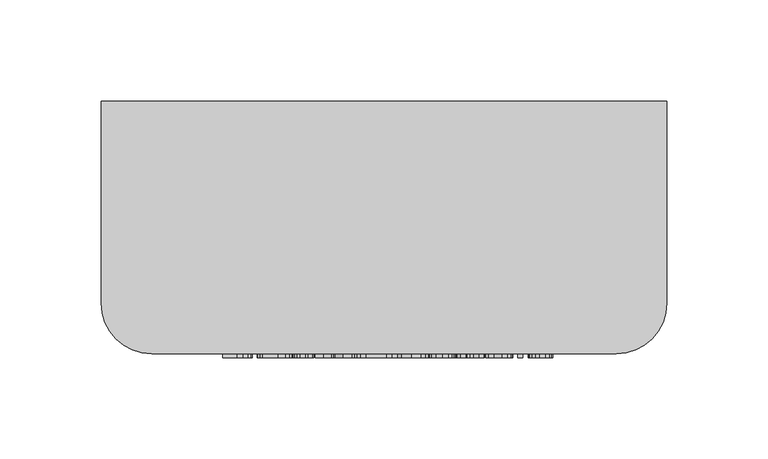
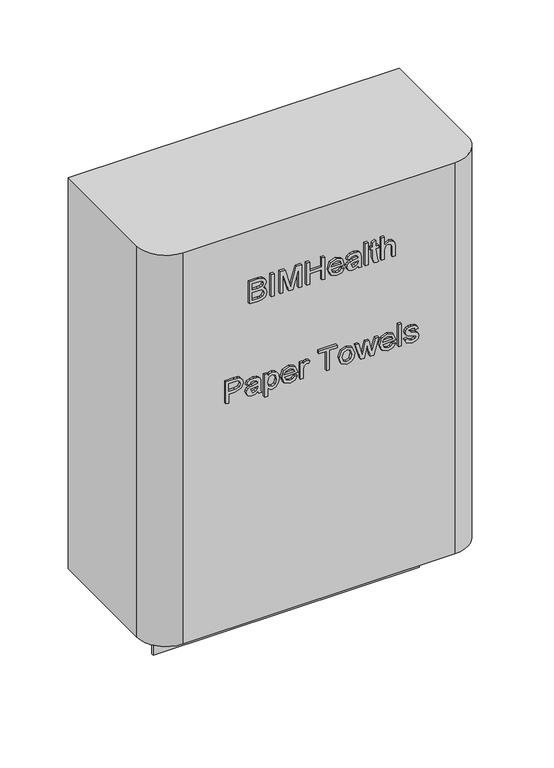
"""IFC4 building model written with IfcOpenShell, lengths in millimetres: furniture geometry, BIMHealth-Paper_Towel_Dispenser-LOD2A-v1 : BIMHealth-Paper_Towel_Dispenser-LOD2A-v1."""

from ifc_helpers import new_model, si_unit, frame, origin, place, context, project, spatial, polyline, circle_curve, outline, extrude, source, transform, mapped, element, save
from ifc_brep_helpers import plane_surface, cylinder_surface, revolved_surface, advanced_brep


def furniture_6688fcf2(model_context):
    return source(origin(), model_context, "Body", "SolidModel", [
        extrude(outline(polyline([(1486.0993641, 80.0917119), (1486.0993641, 87.5484427), (1486.4383065, 90.7046927), (1487.4383065, 92.8465196), (1489.3229218, 94.2816158), (1491.9695565, 94.8609427), (1495.0320565, 94.012385), (1496.8685949, 91.5869042), (1498.6113834, 93.5845004), (1500.9118641, 94.2455581), (1503.4310949, 93.4595004), (1505.2123449, 91.2864234), (1505.7916718, 87.606135), (1505.7916718, 80.0917119), (1486.0993641, 80.0917119)]), holes=[polyline([(1497.7916718, 82.5532504), (1503.3301334, 82.5532504), (1503.3301334, 86.7070965), (1503.0729218, 89.8705581), (1502.1234026, 91.2888273), (1500.5176334, 91.7840196), (1498.914268, 91.2527696), (1498.0032103, 89.6734427), (1497.7916718, 87.0484427), (1497.7916718, 82.5532504)]), polyline([(1488.5609026, 82.5532504), (1495.3301334, 82.5532504), (1495.3301334, 87.3609427), (1495.0008065, 90.4018081), (1493.8589795, 91.9282504), (1491.945518, 92.3994042), (1489.1931141, 90.9739234), (1488.6570565, 89.4282504), (1488.5609026, 87.6013273), (1488.5609026, 82.5532504)])]), frame((0.0, -127.0, 0.0), z_axis=(0.0, 1.0, 0.0), x_axis=(0.0, 0.0, 1.0)), (0.0, 0.0, 1.0), 2.0),
        extrude(outline(polyline([(101.0147888, -127.0), (98.5532504, -127.0), (98.5532504, -125.0), (101.0147888, -125.0), (101.0147888, -127.0)])), frame((0.0, 0.0, 1486.0993641), z_axis=(0.0, 0.0, 1.0), x_axis=(1.0, 0.0, 0.0)), (0.0, 0.0, 1.0), 19.6923077),
        extrude(outline(polyline([(1486.0993641, 105.9378658), (1486.0993641, 108.3994042), (1503.3301334, 108.3994042), (1486.0993641, 113.3465196), (1486.0993641, 116.6830581), (1503.3301334, 121.6301734), (1486.0993641, 121.6301734), (1486.0993641, 124.0917119), (1505.7916718, 124.0917119), (1505.7916718, 119.856135), (1492.1522488, 115.8945965), (1489.0128257, 115.0147888), (1491.9118641, 114.2022888), (1505.7916718, 110.1734427), (1505.7916718, 105.9378658), (1486.0993641, 105.9378658)])), frame((0.0, -127.0, 0.0), z_axis=(0.0, 1.0, 0.0), x_axis=(0.0, 0.0, 1.0)), (0.0, 0.0, 1.0), 2.0),
        extrude(outline(polyline([(1486.0993641, 128.3994042), (1486.0993641, 130.8609427), (1495.3301334, 130.8609427), (1495.3301334, 141.3224811), (1486.0993641, 141.3224811), (1486.0993641, 143.7840196), (1505.7916718, 143.7840196), (1505.7916718, 141.3224811), (1497.7916718, 141.3224811), (1497.7916718, 130.8609427), (1505.7916718, 130.8609427), (1505.7916718, 128.3994042), (1486.0993641, 128.3994042)])), frame((0.0, -127.0, 0.0), z_axis=(0.0, 1.0, 0.0), x_axis=(0.0, 0.0, 1.0)), (0.0, 0.0, 1.0), 2.0),
        extrude(outline(polyline([(1490.4070565, 157.9090196), (1488.7676334, 156.3224811), (1488.2532103, 153.9090196), (1489.3637872, 150.7383465), (1492.5609026, 149.3224811), (1493.2243641, 160.3994042), (1498.8637872, 158.5316158), (1500.8685949, 153.7215196), (1498.8589795, 148.7695965), (1493.2099411, 146.8609427), (1487.7411911, 148.7503658), (1485.7916718, 153.8609427), (1486.9214795, 158.0652696), (1490.0993641, 160.3224811), (1490.4070565, 157.9090196)]), holes=[polyline([(1495.0224411, 149.3224811), (1497.4863834, 150.6806542), (1498.4070565, 153.7119042), (1497.2532103, 156.9522888), (1495.0224411, 157.9378658), (1495.0224411, 149.3224811)])]), frame((0.0, -127.0, 0.0), z_axis=(0.0, 1.0, 0.0), x_axis=(0.0, 0.0, 1.0)), (0.0, 0.0, 1.0), 2.0),
        extrude(outline(polyline([(1487.945518, 172.0917119), (1486.0993641, 172.7070965), (1486.0993641, 175.168635), (1488.1690757, 174.6782504), (1492.445518, 174.5532504), (1495.508018, 174.5532504), (1497.6618641, 174.4330581), (1499.3325372, 173.6782504), (1500.4310949, 171.9931542), (1500.8685949, 169.0099811), (1500.3734026, 165.762385), (1498.9647488, 163.6181542), (1496.5609026, 162.5532504), (1496.2532103, 165.0147888), (1497.9334988, 166.2022888), (1498.4070565, 168.6926734), (1497.695518, 171.4138273), (1495.3301334, 172.0772888), (1494.4839795, 167.8080581), (1494.1137872, 165.6782504), (1493.3060949, 163.9546927), (1491.8926334, 162.7167119), (1489.945518, 162.2455581), (1486.9599411, 163.4931542), (1485.7916718, 167.0676734), (1486.2772488, 169.7046927), (1487.945518, 172.0917119)]), holes=[polyline([(1492.5200372, 172.0845004), (1490.2676334, 171.6878658), (1488.8421526, 170.0820965), (1488.2532103, 167.5917119), (1491.7147488, 166.0027696), (1492.1137872, 168.1205581), (1492.5200372, 172.0845004)])]), frame((0.0, -127.0, 0.0), z_axis=(0.0, 1.0, 0.0), x_axis=(0.0, 0.0, 1.0)), (0.0, 0.0, 1.0), 2.0),
        extrude(outline(polyline([(180.3994042, -127.0), (177.9378658, -127.0), (177.9378658, -125.0), (180.3994042, -125.0), (180.3994042, -127.0)])), frame((0.0, 0.0, 1486.0993641), z_axis=(0.0, 0.0, 1.0), x_axis=(1.0, 0.0, 0.0)), (0.0, 0.0, 1.0), 19.6923077),
        extrude(outline(polyline([(1489.1450372, 188.0917119), (1498.0993641, 186.8609427), (1498.0993641, 189.3224811), (1500.5609026, 189.3224811), (1500.5609026, 186.8609427), (1505.5224411, 186.8609427), (1504.0753257, 184.3994042), (1500.5609026, 184.3994042), (1500.5609026, 182.5532504), (1498.0993641, 182.5532504), (1498.0993641, 184.3994042), (1490.0657103, 184.3994042), (1486.2003257, 185.7263273), (1485.7916718, 187.7888273), (1486.0272488, 189.6301734), (1489.1450372, 188.0917119)])), frame((0.0, -127.0, 0.0), z_axis=(0.0, 1.0, 0.0), x_axis=(0.0, 0.0, 1.0)), (0.0, 0.0, 1.0), 2.0),
        extrude(outline(polyline([(1486.0993641, 191.7840196), (1486.0993641, 194.2455581), (1493.7820565, 194.2455581), (1496.3734026, 194.6470004), (1497.8589795, 195.9931542), (1498.4070565, 198.0099811), (1497.5945565, 200.231135), (1494.9984026, 201.0147888), (1486.0993641, 201.0147888), (1486.0993641, 203.4763273), (1495.2532103, 203.4763273), (1498.4887872, 202.9715196), (1500.2363834, 201.293635), (1500.8685949, 198.5292119), (1498.5512872, 194.2455581), (1505.7916718, 194.2455581), (1505.7916718, 191.7840196), (1486.0993641, 191.7840196)])), frame((0.0, -127.0, 0.0), z_axis=(0.0, 1.0, 0.0), x_axis=(0.0, 0.0, 1.0)), (0.0, 0.0, 1.0), 2.0),
        extrude(outline(polyline([(1403.5993641, 60.0917119), (1403.5993641, 62.5532504), (1411.5993641, 62.5532504), (1411.5993641, 67.5580581), (1413.3397488, 73.2768081), (1417.5945565, 74.8609427), (1420.2796526, 74.2744042), (1422.1834988, 72.7239234), (1423.1041718, 70.3320965), (1423.2916718, 67.3897888), (1423.2916718, 60.0917119), (1403.5993641, 60.0917119)]), holes=[polyline([(1414.0609026, 62.5532504), (1420.8301334, 62.5532504), (1420.8301334, 67.6445965), (1420.6618641, 70.106135), (1419.5464795, 71.7671927), (1417.508018, 72.3994042), (1414.9647488, 71.3272888), (1414.0609026, 67.7022888), (1414.0609026, 62.5532504)])]), frame((0.0, -127.0, 0.0), z_axis=(0.0, 1.0, 0.0), x_axis=(0.0, 0.0, 1.0)), (0.0, 0.0, 1.0), 2.0),
        extrude(outline(polyline([(1405.445518, 87.168635), (1403.5993641, 87.7840196), (1403.5993641, 90.2455581), (1405.6690757, 89.7551734), (1409.945518, 89.6301734), (1413.008018, 89.6301734), (1415.1618641, 89.5099811), (1416.8325372, 88.7551734), (1417.9310949, 87.0700773), (1418.3685949, 84.0869042), (1417.8734026, 80.8393081), (1416.4647488, 78.6950773), (1414.0609026, 77.6301734), (1413.7532103, 80.0917119), (1415.4334988, 81.2792119), (1415.9070565, 83.7695965), (1415.195518, 86.4907504), (1412.8301334, 87.1542119), (1411.9839795, 82.8849811), (1411.6137872, 80.7551734), (1410.8060949, 79.0316158), (1409.3926334, 77.793635), (1407.445518, 77.3224811), (1404.4599411, 78.5700773), (1403.2916718, 82.1445965), (1403.7772488, 84.7816158), (1405.445518, 87.168635)]), holes=[polyline([(1410.0200372, 87.1614234), (1407.7676334, 86.7647888), (1406.3421526, 85.1590196), (1405.7532103, 82.668635), (1409.2147488, 81.0796927), (1409.6137872, 83.1974811), (1410.0200372, 87.1614234)])]), frame((0.0, -127.0, 0.0), z_axis=(0.0, 1.0, 0.0), x_axis=(0.0, 0.0, 1.0)), (0.0, 0.0, 1.0), 2.0),
        extrude(outline(polyline([(1398.0609026, 93.0147888), (1398.0609026, 95.4763273), (1405.5224411, 95.4763273), (1403.9238834, 97.0364234), (1403.2916718, 99.1782504), (1404.2363834, 102.2912311), (1406.9527295, 104.5460388), (1410.9407103, 105.3224811), (1414.7339795, 104.6349811), (1417.4166718, 102.5965196), (1418.3685949, 99.4763273), (1417.6883065, 97.1782504), (1415.6474411, 95.4763273), (1418.0609026, 95.4763273), (1418.0609026, 93.0147888), (1398.0609026, 93.0147888)]), holes=[polyline([(1410.7147488, 95.4763273), (1414.5777295, 96.6133465), (1415.9070565, 99.2263273), (1414.6570565, 101.7888273), (1410.8974411, 102.8609427), (1407.008018, 101.762385), (1405.7532103, 99.1253658), (1406.9647488, 96.5412311), (1410.7147488, 95.4763273)])]), frame((0.0, -127.0, 0.0), z_axis=(0.0, 1.0, 0.0), x_axis=(0.0, 0.0, 1.0)), (0.0, 0.0, 1.0), 2.0),
        extrude(outline(polyline([(1407.9070565, 118.2167119), (1406.2676334, 116.6301734), (1405.7532103, 114.2167119), (1406.8637872, 111.0460388), (1410.0609026, 109.6301734), (1410.7243641, 120.7070965), (1416.3637872, 118.8393081), (1418.3685949, 114.0292119), (1416.3589795, 109.0772888), (1410.7099411, 107.168635), (1405.2411911, 109.0580581), (1403.2916718, 114.168635), (1404.4214795, 118.3729619), (1407.5993641, 120.6301734), (1407.9070565, 118.2167119)]), holes=[polyline([(1412.5224411, 109.6301734), (1414.9863834, 110.9883465), (1415.9070565, 114.0195965), (1414.7532103, 117.2599811), (1412.5224411, 118.2455581), (1412.5224411, 109.6301734)])]), frame((0.0, -127.0, 0.0), z_axis=(0.0, 1.0, 0.0), x_axis=(0.0, 0.0, 1.0)), (0.0, 0.0, 1.0), 2.0),
        extrude(outline(polyline([(1403.5993641, 123.168635), (1403.5993641, 125.6301734), (1411.2003257, 125.6301734), (1414.0753257, 126.0292119), (1415.9070565, 128.3080581), (1415.4022488, 130.0388273), (1417.6089795, 130.8609427), (1418.3685949, 128.3897888), (1417.8926334, 126.8513273), (1415.9214795, 125.3224811), (1418.0609026, 125.3224811), (1418.0609026, 123.168635), (1403.5993641, 123.168635)])), frame((0.0, -127.0, 0.0), z_axis=(0.0, 1.0, 0.0), x_axis=(0.0, 0.0, 1.0)), (0.0, 0.0, 1.0), 2.0),
        extrude(outline(polyline([(1403.5993641, 145.3224811), (1403.5993641, 147.7840196), (1420.8301334, 147.7840196), (1420.8301334, 154.2455581), (1423.2916718, 154.2455581), (1423.2916718, 138.8609427), (1420.8301334, 138.8609427), (1420.8301334, 145.3224811), (1403.5993641, 145.3224811)])), frame((0.0, -127.0, 0.0), z_axis=(0.0, 1.0, 0.0), x_axis=(0.0, 0.0, 1.0)), (0.0, 0.0, 1.0), 2.0),
        extrude(outline(polyline([(1410.8301334, 156.0917119), (1405.2339795, 157.8777696), (1403.2916718, 162.5580581), (1404.1738834, 165.8921927), (1406.6522488, 168.2167119), (1411.0320565, 169.0147888), (1416.4190757, 167.2095004), (1418.3685949, 162.5580581), (1416.7676334, 158.2215196), (1410.8301334, 156.0917119)]), holes=[polyline([(1410.8349411, 158.5532504), (1414.6450372, 159.6926734), (1415.9070565, 162.5580581), (1414.6402295, 165.4066158), (1410.9118641, 166.5532504), (1407.0272488, 165.4138273), (1405.7532103, 162.5580581), (1407.0200372, 159.6926734), (1410.8349411, 158.5532504)])]), frame((0.0, -127.0, 0.0), z_axis=(0.0, 1.0, 0.0), x_axis=(0.0, 0.0, 1.0)), (0.0, 0.0, 1.0), 2.0),
        extrude(outline(polyline([(1403.5993641, 174.1830581), (1403.5993641, 177.1926734), (1414.7243641, 179.6301734), (1412.0801334, 180.1782504), (1403.5993641, 182.0676734), (1403.5993641, 185.043635), (1418.0609026, 189.4763273), (1418.0609026, 186.9090196), (1409.6810949, 184.4090196), (1406.9070565, 183.6301734), (1409.5368641, 183.0869042), (1418.0609026, 181.1109427), (1418.0609026, 178.1782504), (1409.5128257, 176.1926734), (1406.6089795, 175.5820965), (1409.6234026, 174.8369042), (1418.0609026, 172.3417119), (1418.0609026, 169.7840196), (1403.5993641, 174.1830581)])), frame((0.0, -127.0, 0.0), z_axis=(0.0, 1.0, 0.0), x_axis=(0.0, 0.0, 1.0)), (0.0, 0.0, 1.0), 2.0),
        extrude(outline(polyline([(1407.9070565, 201.293635), (1406.2676334, 199.7070965), (1405.7532103, 197.293635), (1406.8637872, 194.1229619), (1410.0609026, 192.7070965), (1410.7243641, 203.7840196), (1416.3637872, 201.9162311), (1418.3685949, 197.106135), (1416.3589795, 192.1542119), (1410.7099411, 190.2455581), (1405.2411911, 192.1349811), (1403.2916718, 197.2455581), (1404.4214795, 201.449885), (1407.5993641, 203.7070965), (1407.9070565, 201.293635)]), holes=[polyline([(1412.5224411, 192.7070965), (1414.9863834, 194.0652696), (1415.9070565, 197.0965196), (1414.7532103, 200.3369042), (1412.5224411, 201.3224811), (1412.5224411, 192.7070965)])]), frame((0.0, -127.0, 0.0), z_axis=(0.0, 1.0, 0.0), x_axis=(0.0, 0.0, 1.0)), (0.0, 0.0, 1.0), 2.0),
        extrude(outline(polyline([(208.7070965, -127.0), (206.2455581, -127.0), (206.2455581, -125.0), (208.7070965, -125.0), (208.7070965, -127.0)])), frame((0.0, 0.0, 1403.5993641), z_axis=(0.0, 0.0, 1.0), x_axis=(1.0, 0.0, 0.0)), (0.0, 0.0, 1.0), 19.6923077),
        extrude(outline(polyline([(1407.9070565, 211.4763273), (1404.4551334, 213.3609427), (1403.2916718, 217.6542119), (1403.8950372, 220.7022888), (1405.6041718, 222.762385), (1407.9599411, 223.4763273), (1410.0993641, 222.8681542), (1411.4118641, 221.1902696), (1412.570518, 217.5772888), (1415.4407103, 214.9522888), (1415.9070565, 217.3080581), (1415.4190757, 219.4739234), (1414.0609026, 220.3994042), (1414.3685949, 222.8609427), (1416.5777295, 222.0147888), (1417.8854218, 220.1109427), (1418.3685949, 217.1157504), (1418.0681141, 214.9979619), (1417.3397488, 213.4330581), (1415.9383065, 212.2263273), (1414.1041718, 211.7840196), (1412.1185949, 212.3345004), (1410.7123449, 213.9522888), (1409.508018, 217.6590196), (1407.7003257, 221.0147888), (1406.3349411, 220.1974811), (1405.7532103, 217.6878658), (1406.3878257, 215.0772888), (1408.2147488, 213.9378658), (1407.9070565, 211.4763273)])), frame((0.0, -127.0, 0.0), z_axis=(0.0, 1.0, 0.0), x_axis=(0.0, 0.0, 1.0)), (0.0, 0.0, 1.0), 2.0),
        extrude(outline(polyline([(252.5, -75.0), (252.5, -77.0), (27.5, -77.0), (27.5, -75.0), (252.5, -75.0)])), frame((0.0, 0.0, 1160.0), z_axis=(0.0, 0.0, 1.0), x_axis=(1.0, 0.0, 0.0)), (0.0, 0.0, 1.0), 40.0),
        advanced_brep(
        [(255.0, -125.0, 1550.0), (280.0, -100.0, 1550.0), (280.0, 0.0, 1550.0), (0.0, 0.0, 1550.0), (0.0, -100.0, 1550.0), (25.0, -125.0, 1550.0), (255.0, -125.0, 1200.0), (25.0, -125.0, 1200.0), (0.0, -100.0, 1200.0), (0.0, 0.0, 1200.0), (280.0, 0.0, 1200.0), (280.0, -100.0, 1200.0), (260.0, -70.0, 1200.0), (20.0, -70.0, 1200.0), (20.0, -80.0, 1200.0), (260.0, -80.0, 1200.0), (280.0, -100.0, 1545.0), (280.0, -100.0, 1205.0), (280.0, 0.0, 1205.0), (280.0, 0.0, 1545.0), (0.0, 0.0, 1545.0), (0.0, 0.0, 1205.0), (0.0, -100.0, 1205.0), (0.0, -100.0, 1545.0), (25.0, -125.0, 1545.0), (25.0, -125.0, 1205.0), (255.0, -125.0, 1205.0), (255.0, -125.0, 1545.0), (275.0, -5.0, 1545.0), (5.0, -5.0, 1545.0), (5.0, -5.0, 1205.0), (275.0, -5.0, 1205.0), (275.0, -100.0, 1545.0), (275.0, -100.0, 1205.0), (255.0, -120.0, 1545.0), (255.0, -120.0, 1205.0), (25.0, -120.0, 1545.0), (25.0, -120.0, 1205.0), (5.0, -100.0, 1545.0), (5.0, -100.0, 1205.0), (260.0, -70.0, 1205.0), (260.0, -80.0, 1205.0), (20.0, -80.0, 1205.0), (20.0, -70.0, 1205.0)],
        [
            (0, 1, circle_curve(frame((255.0, -100.0, 1550.0), z_axis=(0.0, 0.0, 1.0), x_axis=(-1.0, 0.0, 0.0)), 25.0)),
            (1, 2),
            (2, 3),
            (3, 4),
            (4, 5, circle_curve(frame((25.0, -100.0, 1550.0), z_axis=(0.0, 0.0, 1.0), x_axis=(1.0, 0.0, 0.0)), 25.0)),
            (5, 0),
            (6, 7),
            (7, 8, circle_curve(frame((25.0, -100.0, 1200.0), z_axis=(0.0, 0.0, -1.0), x_axis=(1.0, 0.0, 0.0)), 25.0)),
            (8, 9),
            (9, 10),
            (10, 11),
            (11, 6, circle_curve(frame((255.0, -100.0, 1200.0), z_axis=(0.0, 0.0, -1.0), x_axis=(-1.0, 0.0, 0.0)), 25.0)),
            (12, 13),
            (13, 14),
            (14, 15),
            (15, 12),
            (1, 16),
            (16, 17),
            (17, 11),
            (10, 18),
            (18, 19),
            (19, 2),
            (3, 20),
            (20, 21),
            (21, 9),
            (8, 22),
            (22, 23),
            (23, 4),
            (5, 24),
            (24, 25),
            (25, 7),
            (6, 26),
            (26, 27),
            (27, 0),
            (28, 29),
            (29, 30),
            (30, 31),
            (31, 28),
            (32, 28),
            (31, 33),
            (33, 32),
            (34, 32, circle_curve(frame((255.0, -100.0, 1545.0), z_axis=(0.0, 0.0, 1.0), x_axis=(-1.0, 0.0, 0.0)), 20.0)),
            (33, 35, circle_curve(frame((255.0, -100.0, 1205.0), z_axis=(0.0, 0.0, -1.0), x_axis=(-1.0, 0.0, 0.0)), 20.0)),
            (35, 34),
            (36, 34),
            (35, 37),
            (37, 36),
            (38, 36, circle_curve(frame((25.0, -100.0, 1545.0), z_axis=(0.0, 0.0, 1.0), x_axis=(1.0, 0.0, 0.0)), 20.0)),
            (37, 39, circle_curve(frame((25.0, -100.0, 1205.0), z_axis=(0.0, 0.0, -1.0), x_axis=(1.0, 0.0, 0.0)), 20.0)),
            (39, 38),
            (29, 38),
            (39, 30),
            (40, 41),
            (41, 42),
            (42, 43),
            (43, 40),
            (40, 12),
            (15, 41),
            (14, 42),
            (13, 43),
        ],
        [
            plane_surface(frame((230.0, -100.0, 1550.0), z_axis=(0.0, 0.0, 1.0), x_axis=(0.0, -1.0, 0.0))),
            plane_surface(frame((230.0, -100.0, 1200.0), z_axis=(0.0, 0.0, -1.0), x_axis=(0.0, 1.0, 0.0))),
            plane_surface(frame((280.0, -100.0, 1550.0), z_axis=(1.0, 0.0, 0.0), x_axis=(0.0, 0.0, -1.0))),
            plane_surface(frame((0.0, -75.0, 1550.0), z_axis=(-1.0, 0.0, 0.0), x_axis=(0.0, 0.0, -1.0))),
            plane_surface(frame((25.0, -125.0, 1550.0), z_axis=(0.0, -1.0, 0.0), x_axis=(0.0, 0.0, -1.0))),
            cylinder_surface(frame((255.0, -100.0, 1200.0), z_axis=(0.0, 0.0, 1.0), x_axis=(-1.0, 0.0, 0.0)), 25.0),
            cylinder_surface(frame((25.0, -100.0, 1200.0), z_axis=(0.0, 0.0, 1.0), x_axis=(1.0, 0.0, 0.0)), 25.0),
            plane_surface(frame((280.0, 0.0, 1550.0), z_axis=(0.0, 1.0, 0.0), x_axis=(0.0, 0.0, -1.0))),
            plane_surface(frame((5.0, -5.0, 1550.0), z_axis=(0.0, -1.0, 0.0), x_axis=(0.0, 0.0, -1.0))),
            plane_surface(frame((275.0, -75.0, 1550.0), z_axis=(-1.0, 0.0, 0.0), x_axis=(0.0, 0.0, -1.0))),
            revolved_surface(polyline([(235.0, -100.0, 1205.0), (235.0, -100.0, 1545.0)]), (255.0, -100.0, 1200.0), (0.0, 0.0, -1.0)),
            plane_surface(frame((255.0, -120.0, 1550.0), z_axis=(0.0, 1.0, 0.0), x_axis=(0.0, 0.0, -1.0))),
            revolved_surface(polyline([(45.0, -100.0, 1205.0), (45.0, -100.0, 1545.0)]), (25.0, -100.0, 1200.0), (0.0, 0.0, -1.0)),
            plane_surface(frame((5.0, -100.0, 1550.0), z_axis=(1.0, 0.0, 0.0), x_axis=(0.0, 0.0, -1.0))),
            plane_surface(frame((0.0, 0.0, 1545.0), z_axis=(0.0, 0.0, -1.0), x_axis=(1.0, 0.0, 0.0))),
            plane_surface(frame((-55.0, 0.0, 1205.0), z_axis=(0.0, 0.0, 1.0), x_axis=(-1.0, 0.0, 0.0))),
            plane_surface(frame((260.0, -70.0, 1205.0), z_axis=(-1.0, 0.0, 0.0), x_axis=(0.0, 0.0, -1.0))),
            plane_surface(frame((260.0, -80.0, 1205.0), z_axis=(0.0, 1.0, 0.0), x_axis=(0.0, 0.0, -1.0))),
            plane_surface(frame((20.0, -80.0, 1205.0), z_axis=(1.0, 0.0, 0.0), x_axis=(0.0, 0.0, -1.0))),
            plane_surface(frame((20.0, -70.0, 1205.0), z_axis=(0.0, -1.0, 0.0), x_axis=(0.0, 0.0, -1.0))),
        ],
        [
            (0, [[1, 2, 3, 4, 5, 6]]),
            (1, [[7, 8, 9, 10, 11, 12], [13, 14, 15, 16]]),
            (2, [[17, 18, 19, -11, 20, 21, 22, -2]]),
            (3, [[-4, 23, 24, 25, -9, 26, 27, 28]]),
            (4, [[-6, 29, 30, 31, -7, 32, 33, 34]]),
            (5, [[-1, -34, -33, -32, -12, -19, -18, -17]]),
            (6, [[-5, -28, -27, -26, -8, -31, -30, -29]]),
            (7, [[-3, -22, -21, -20, -10, -25, -24, -23]]),
            (8, [[35, 36, 37, 38]]),
            (9, [[39, -38, 40, 41]]),
            (10, [[42, -41, 43, 44]]),
            (11, [[45, -44, 46, 47]]),
            (12, [[48, -47, 49, 50]]),
            (13, [[51, -50, 52, -36]]),
            (14, [[-39, -42, -45, -48, -51, -35]]),
            (15, [[-40, -37, -52, -49, -46, -43], [53, 54, 55, 56]]),
            (16, [[-53, 57, -16, 58]]),
            (17, [[-54, -58, -15, 59]]),
            (18, [[-55, -59, -14, 60]]),
            (19, [[-56, -60, -13, -57]]),
        ],
    ),
    ])


if __name__ == "__main__":
    model = new_model("IFC4")
    model_context = context("Model", 3, world=origin())
    ifc_project = project(units=[si_unit("LENGTHUNIT", "METRE", prefix="MILLI")], contexts=[model_context])
    site = spatial("IfcSite", under=ifc_project)
    building = spatial("IfcBuilding", under=site)
    placement = place(None, origin())
    furniture_shape = furniture_6688fcf2(model_context)
    element("IfcFurniture", 1, ObjectType="BIMHealth-Paper_Towel_Dispenser-LOD2A-v1 : BIMHealth-Paper_Towel_Dispenser-LOD2A-v1", at=placement, inside=building, context=model_context, shape_type="MappedRepresentation", body=[
        mapped(furniture_shape, transform((0.0, 0.0, 0.0), x_axis=(1.0, 0.0, 0.0), y_axis=(0.0, 1.0, 0.0), z_axis=(0.0, 0.0, 1.0))),
    ])
    save(model, "model.ifc")
